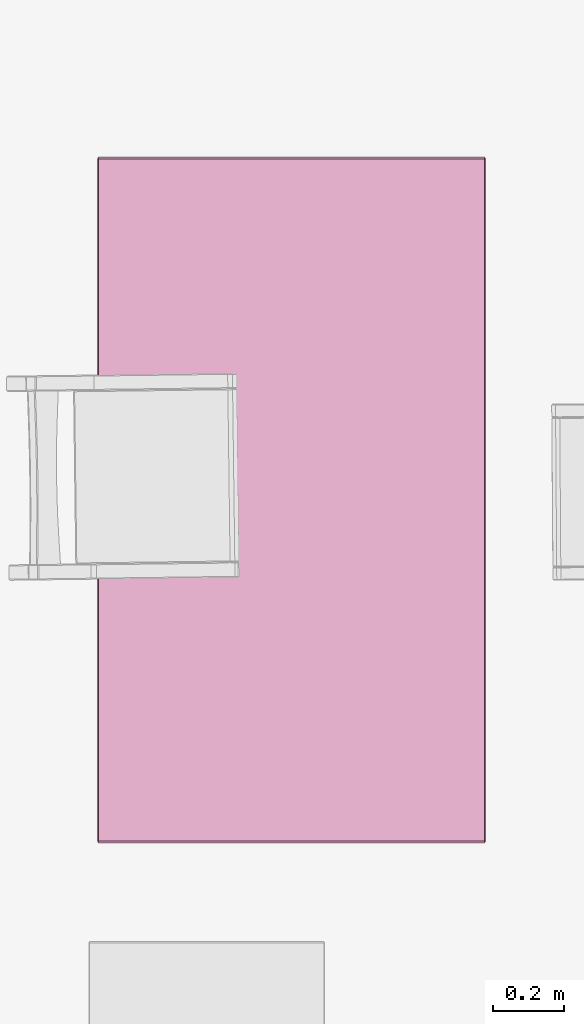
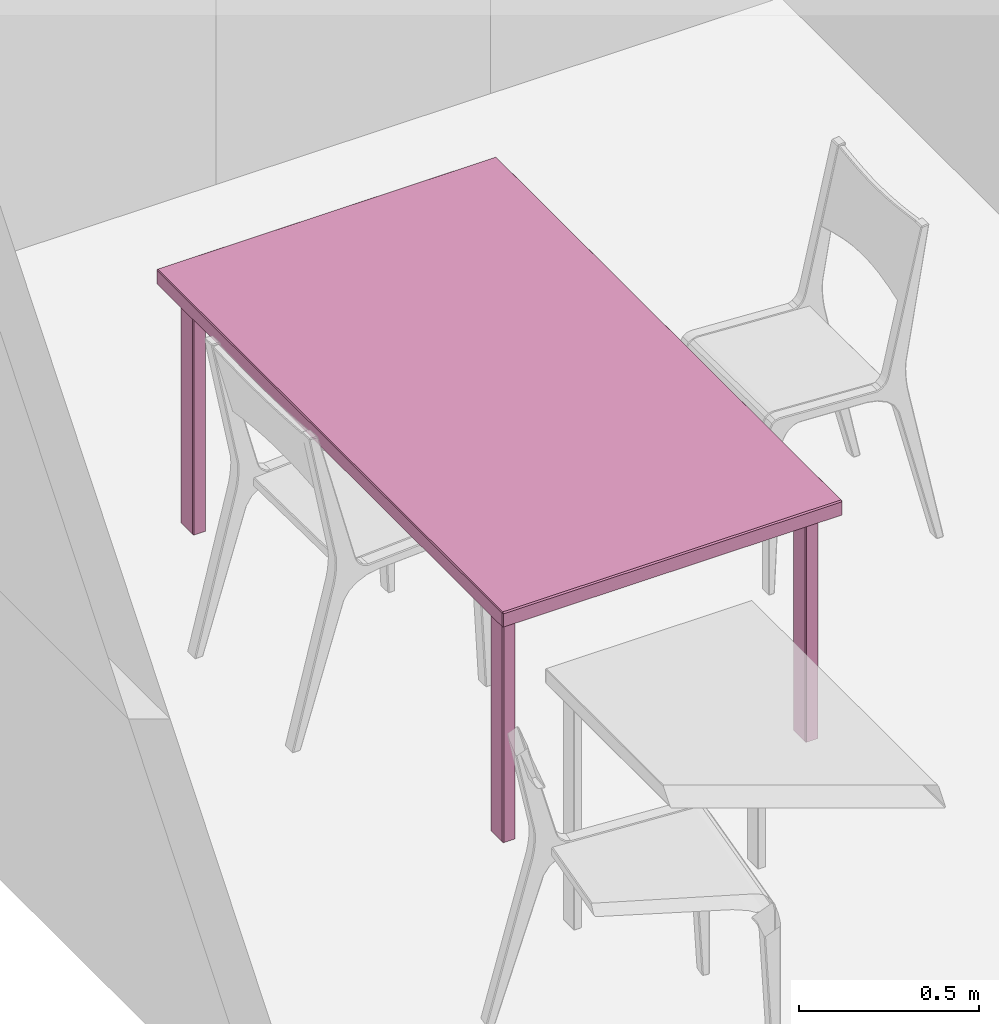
# One storey, part 7 of 26: 1 furnishing.
"""IFC2X3 building model written with IfcOpenShell, lengths in metres."""

import ifcopenshell
import ifcopenshell.guid

model = None  # the IFC model being written
_history = None  # IfcOwnerHistory: only IFC2X3 demands one
_inside = {}  # id of a spatial element -> (the spatial element, [elements in it])
_under = {}  # id of a project, library or spatial element -> (it, [spatial elements below it])
_declared = {}  # id of a project -> (the project, [libraries it declares])
_typed = {}  # id of a type object -> (the type object, [elements of that type])
_made_of = {}  # id of a material, layer set ... -> (it, [elements and type objects made of it])


def new_model(schema):
    """Start an empty IFC model of exactly this schema.

    Asked for "IFC4X3", IfcOpenShell would pick the latest addendum, in which some entities
    have other attributes; the version numbers below select the first issue.
    IFC2X3 requires an IfcOwnerHistory on every rooted entity: one is made here for all.
    """
    global model, _history
    if schema == "IFC4X3":
        model = ifcopenshell.file(schema_version=(4, 3, 0, 0))
    else:
        model = ifcopenshell.file(schema=schema)
    _inside.clear()
    _under.clear()
    _declared.clear()
    _typed.clear()
    _made_of.clear()
    _history = None
    if model.schema == "IFC2X3":
        org = make("IfcOrganization", Name="unknown")
        user = make(
            "IfcPersonAndOrganization",
            ThePerson=make("IfcPerson", FamilyName="unknown"),
            TheOrganization=org,
        )
        app = make(
            "IfcApplication",
            ApplicationDeveloper=org,
            Version="unknown",
            ApplicationFullName="unknown",
            ApplicationIdentifier="unknown",
        )
        _history = make(
            "IfcOwnerHistory",
            OwningUser=user,
            OwningApplication=app,
            ChangeAction="ADDED",
            CreationDate=0,
        )
    return model


def make(cls, **values):
    """One entity of the class cls with the attributes given. An attribute that is None is left unset."""
    return model.create_entity(
        cls, **{name: value for name, value in values.items() if value is not None}
    )


def rooted(cls, **values):
    """An entity with a GlobalId (a new one), such as an element, a storey or a relation."""
    return make(cls, GlobalId=ifcopenshell.guid.new(), OwnerHistory=_history, **values)


def si_unit(unit_type, name, prefix=None):
    """IfcSIUnit, for example si_unit("LENGTHUNIT", "METRE", prefix="MILLI")."""
    return make("IfcSIUnit", UnitType=unit_type, Prefix=prefix, Name=name)


def assignment(units):
    """IfcUnitAssignment: the units of a project."""
    return None if units is None else make("IfcUnitAssignment", Units=units)


def point(xyz):
    """IfcCartesianPoint."""
    return None if xyz is None else make("IfcCartesianPoint", Coordinates=xyz)


def direction(xyz):
    """IfcDirection."""
    return None if xyz is None else make("IfcDirection", DirectionRatios=xyz)


def frame(location, z_axis=None, x_axis=None):
    """IfcAxis2Placement3D, a coordinate frame: its origin and axes. An axis left out is left unset."""
    return make(
        "IfcAxis2Placement3D",
        Location=point(location),
        Axis=direction(z_axis),
        RefDirection=direction(x_axis),
    )


def origin_with_axes():
    """The frame at (0, 0, 0) with the z axis (0, 0, 1) and the x axis (1, 0, 0) written out."""
    return frame((0.0, 0.0, 0.0), z_axis=(0.0, 0.0, 1.0), x_axis=(1.0, 0.0, 0.0))


def place(relative_to, where):
    """IfcLocalPlacement: puts the frame where relative to a parent placement (None: the world)."""
    return make(
        "IfcLocalPlacement", PlacementRelTo=relative_to, RelativePlacement=where
    )


def context(
    kind, dimensions, precision=None, world=None, true_north=None, identifier=None
):
    """IfcGeometricRepresentationContext, for example the 3D "Model" context."""
    return make(
        "IfcGeometricRepresentationContext",
        ContextIdentifier=identifier,
        ContextType=kind,
        CoordinateSpaceDimension=dimensions,
        Precision=precision,
        WorldCoordinateSystem=world,
        TrueNorth=true_north,
    )


def project(units=None, contexts=None):
    """IfcProject with its units and contexts."""
    return rooted(
        "IfcProject",
        Name="project",
        RepresentationContexts=contexts,
        UnitsInContext=assignment(units),
    )


def spatial(cls, under=None, at=None, **own):
    """A site, building, storey or space (cls), placed at a placement, below another one or the project."""
    s = rooted(cls, ObjectPlacement=at, **own)
    if under is not None:
        _under.setdefault(under.id(), (under, []))[1].append(s)
    return s


def faces_of(points, faces, orient=None, outer=None):
    """IfcFace entities. A face is a list of loops; a loop is a list of indices into points, from 0.

    orient and outer hold one flag for each loop. By default every Orientation is true, the
    first loop of a face is its IfcFaceOuterBound and the others are IfcFaceBound.
    """
    made = []
    for i, loops in enumerate(faces):
        bounds = []
        for j, loop in enumerate(loops):
            is_outer = j == 0 if outer is None else outer[i][j]
            bounds.append(
                make(
                    "IfcFaceOuterBound" if is_outer else "IfcFaceBound",
                    Bound=make("IfcPolyLoop", Polygon=[points[k] for k in loop]),
                    Orientation=True if orient is None else orient[i][j],
                )
            )
        made.append(make("IfcFace", Bounds=bounds))
    return made


def faceted_brep(points, faces, orient=None, outer=None, voids=None):
    """IfcFacetedBrep: a solid bounded by flat faces; with voids (closed shells), ...WithVoids."""
    shared = [point(p) for p in points]
    hull = make("IfcClosedShell", CfsFaces=faces_of(shared, faces, orient, outer))
    if voids is None:
        return make("IfcFacetedBrep", Outer=hull)
    return make(
        "IfcFacetedBrepWithVoids",
        Outer=hull,
        Voids=[
            make(cls, CfsFaces=faces_of(shared, fs, o, b)) for cls, fs, o, b in voids
        ],
    )


def shape(context_of_items, identifier, shape_type, items):
    """IfcShapeRepresentation: the items that make up one representation, for example the "Body"."""
    return make(
        "IfcShapeRepresentation",
        ContextOfItems=context_of_items,
        RepresentationIdentifier=identifier,
        RepresentationType=shape_type,
        Items=items,
    )


def made_of(thing, what):
    """Note that an element or type object is made of a material, layer set ...; save() writes the relation."""
    if what is not None:
        _made_of.setdefault(what.id(), (what, []))[1].append(thing)
    return thing


def type_object(cls, material=None, **own):
    """A type object (cls), such as IfcWallType, which elements share."""
    return made_of(rooted(cls, **own), material)


def element(
    cls,
    number,
    at=None,
    inside=None,
    cuts=None,
    type_object=None,
    material=None,
    context=None,
    identifier="Body",
    shape_type=None,
    held_by="IfcProductDefinitionShape",
    body=None,
    shapes=None,
    **own,
):
    """One element of the class cls, such as IfcWall. Its Tag is "e" and its number.

    at: its placement. inside: the storey or other place that contains it. cuts: it is an
    opening in that element (IfcRelVoidsElement). A single representation is given by context,
    identifier, shape_type and body (its items); several are given by shapes. held_by: the class
    of the entity that holds the representations. save() writes the other relations.
    """
    e = rooted(cls, Tag="e%d" % number, ObjectPlacement=at, **own)
    if body is not None:
        shapes = [shape(context, identifier, shape_type, body)]
    if shapes is not None:
        e.Representation = make(held_by, Representations=shapes)
    if inside is not None:
        _inside.setdefault(inside.id(), (inside, []))[1].append(e)
    if cuts is not None:
        rooted(
            "IfcRelVoidsElement", RelatingBuildingElement=cuts, RelatedOpeningElement=e
        )
    if type_object is not None:
        _typed.setdefault(type_object.id(), (type_object, []))[1].append(e)
    return made_of(e, material)


def aggregate(whole, parts):
    """IfcRelAggregates: a whole, such as a stair, and the parts it consists of."""
    return rooted("IfcRelAggregates", RelatingObject=whole, RelatedObjects=parts)


def save(model, path):
    """Write the relations noted so far, then the file.

    IfcRelAggregates (storeys below a building ...), IfcRelContainedInSpatialStructure (elements
    in a storey), IfcRelDefinesByType, IfcRelAssociatesMaterial and IfcRelDeclares: one each for
    every whole, place, type object, material and project.
    """
    for whole, parts in _under.values():
        aggregate(whole, parts)
    for where, things in _inside.values():
        rooted(
            "IfcRelContainedInSpatialStructure",
            RelatedElements=things,
            RelatingStructure=where,
        )
    for kind, things in _typed.values():
        rooted("IfcRelDefinesByType", RelatedObjects=things, RelatingType=kind)
    for what, things in _made_of.values():
        rooted("IfcRelAssociatesMaterial", RelatedObjects=things, RelatingMaterial=what)
    for by, libraries in _declared.values():
        rooted("IfcRelDeclares", RelatingContext=by, RelatedDefinitions=libraries)
    model.write(path)


model = new_model("IFC2X3")

# Units and contexts
model_context = context("Model", 3, precision=1e-05, world=origin_with_axes(), true_north=direction((0.996, -0.093, 0.0)))
ifc_project = project(units=[si_unit("AREAUNIT", "SQUARE_METRE"), si_unit("LENGTHUNIT", "METRE")], contexts=[model_context])

# Site, building, storey, space
site_placement = place(None, origin_with_axes())
site = spatial("IfcSite", under=ifc_project, at=site_placement, Name="Site", CompositionType="ELEMENT")
building_placement = place(site_placement, origin_with_axes())
building = spatial("IfcBuilding", under=site, at=building_placement, Name="Building", CompositionType="ELEMENT")
storey_placement = place(building_placement, frame((0.0, 0.0, 0.0500001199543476), z_axis=(0.0, 0.0, 1.0), x_axis=(1.0, 0.0, 0.0)))
storey = spatial("IfcBuildingStorey", under=building, at=storey_placement, Name="Story 0", CompositionType="ELEMENT", Elevation=0.0500000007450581)
space_placement = place(storey_placement, frame((1.81268445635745, 0.76919262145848, 0.0), z_axis=(0.0, 0.0, 1.0), x_axis=(1.0, 0.0, 0.0)))
space = spatial("IfcSpace", under=storey, at=space_placement, Name="013", CompositionType="ELEMENT", InteriorOrExteriorSpace="INTERNAL")

# Furnishing
furniture_type = type_object("IfcFurnitureType", Name="7cafea84-9671-433a-a44b-282d78b740ac")
furnishing_placement = place(space_placement, frame((-2.20816097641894, -2.2638544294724, 0.417852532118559), z_axis=(0.0, 0.0, 0.999999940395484), x_axis=(-0.999999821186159, 0.0, 0.0)))
element("IfcFurnishingElement", 1, at=furnishing_placement, inside=space, type_object=furniture_type, Name="Table", ObjectType="Table", context=model_context, shape_type="Brep", body=[
    faceted_brep([(0.5414, 0.9615, 0.3694), (-0.5414, 0.9615, 0.3694), (0.5414, 0.9615, 0.4142), (-0.5414, 0.9615, 0.4142), (0.5414, 0.9615, 0.4142), (-0.5414, 0.9615, 0.3694), (0.4641, -0.8903, 0.3788), (0.4641, -0.8272, 0.3788), (0.4641, -0.8903, -0.4142), (0.4641, -0.8272, -0.4142), (0.4641, -0.8903, -0.4142), (0.4641, -0.8272, 0.3788), (0.5025, -0.8951, 0.3788), (0.4668, -0.8951, 0.3788), (0.5025, -0.8951, -0.4142), (0.4668, -0.8951, -0.4142), (0.5025, -0.8951, -0.4142), (0.4668, -0.8951, 0.3788), (0.5052, -0.8272, 0.3788), (0.5052, -0.8903, 0.3788), (0.5052, -0.8272, -0.4142), (0.5052, -0.8903, -0.4142), (0.5052, -0.8272, -0.4142), (0.5052, -0.8903, 0.3788), (0.4668, -0.8224, 0.3788), (0.5025, -0.8224, 0.3788), (0.4668, -0.8224, -0.4142), (0.5025, -0.8224, -0.4142), (0.4668, -0.8224, -0.4142), (0.5025, -0.8224, 0.3788), (0.4641, 0.8903, 0.3788), (0.4641, 0.8903, -0.4142), (0.4641, 0.8272, 0.3788), (0.4641, 0.8272, -0.4142), (0.4641, 0.8272, 0.3788), (0.4641, 0.8903, -0.4142), (0.5025, 0.8951, 0.3788), (0.5025, 0.8951, -0.4142), (0.4668, 0.8951, 0.3788), (0.4668, 0.8951, -0.4142), (0.4668, 0.8951, 0.3788), (0.5025, 0.8951, -0.4142), (0.5052, 0.8272, 0.3788), (0.5052, 0.8272, -0.4142), (0.5052, 0.8903, 0.3788), (0.5052, 0.8903, -0.4142), (0.5052, 0.8903, 0.3788), (0.5052, 0.8272, -0.4142), (0.4668, 0.8224, 0.3788), (0.4668, 0.8224, -0.4142), (0.5025, 0.8224, 0.3788), (0.5025, 0.8224, -0.4142), (0.5025, 0.8224, 0.3788), (0.4668, 0.8224, -0.4142), (0.5441, 0.9567, 0.3694), (0.5441, 0.9567, 0.4142), (0.5441, -0.9567, 0.3694), (0.5441, -0.9567, 0.4142), (0.5441, -0.9567, 0.3694), (0.5441, 0.9567, 0.4142), (-0.5441, 0.9567, 0.4142), (-0.5441, 0.9567, 0.3694), (-0.5441, -0.9567, 0.4142), (-0.5441, -0.9567, 0.3694), (-0.5441, -0.9567, 0.4142), (-0.5441, 0.9567, 0.3694), (-0.4641, -0.8903, 0.3788), (-0.4641, -0.8903, -0.4142), (-0.4641, -0.8272, 0.3788), (-0.4641, -0.8272, -0.4142), (-0.4641, -0.8272, 0.3788), (-0.4641, -0.8903, -0.4142), (-0.5025, -0.8951, 0.3788), (-0.5025, -0.8951, -0.4142), (-0.4668, -0.8951, 0.3788), (-0.4668, -0.8951, -0.4142), (-0.4668, -0.8951, 0.3788), (-0.5025, -0.8951, -0.4142), (-0.5052, -0.8272, 0.3788), (-0.5052, -0.8272, -0.4142), (-0.5052, -0.8903, 0.3788), (-0.5052, -0.8903, -0.4142), (-0.5052, -0.8903, 0.3788), (-0.5052, -0.8272, -0.4142), (-0.4668, -0.8224, 0.3788), (-0.4668, -0.8224, -0.4142), (-0.5025, -0.8224, 0.3788), (-0.5025, -0.8224, -0.4142), (-0.5025, -0.8224, 0.3788), (-0.4668, -0.8224, -0.4142), (-0.4641, 0.8903, 0.3788), (-0.4641, 0.8272, 0.3788), (-0.4641, 0.8903, -0.4142), (-0.4641, 0.8272, -0.4142), (-0.4641, 0.8903, -0.4142), (-0.4641, 0.8272, 0.3788), (-0.5025, 0.8951, 0.3788), (-0.4668, 0.8951, 0.3788), (-0.5025, 0.8951, -0.4142), (-0.4668, 0.8951, -0.4142), (-0.5025, 0.8951, -0.4142), (-0.4668, 0.8951, 0.3788), (-0.5052, 0.8272, 0.3788), (-0.5052, 0.8903, 0.3788), (-0.5052, 0.8272, -0.4142), (-0.5052, 0.8903, -0.4142), (-0.5052, 0.8272, -0.4142), (-0.5052, 0.8903, 0.3788), (-0.4668, 0.8224, 0.3788), (-0.5025, 0.8224, 0.3788), (-0.4668, 0.8224, -0.4142), (-0.5025, 0.8224, -0.4142), (-0.4668, 0.8224, -0.4142), (-0.5025, 0.8224, 0.3788), (-0.5414, 0.9567, 0.4179), (-0.5414, -0.9567, 0.4179), (0.5414, 0.9567, 0.4179), (0.5414, -0.9567, 0.4179), (0.5414, 0.9567, 0.4179), (-0.5414, -0.9567, 0.4179), (0.5414, -0.9615, 0.3694), (0.5414, -0.9615, 0.4142), (-0.5414, -0.9615, 0.3694), (-0.5414, -0.9615, 0.4142), (-0.5414, -0.9615, 0.3694), (0.5414, -0.9615, 0.4142), (0.5414, -0.9567, 0.3657), (-0.5414, -0.9567, 0.3657), (0.5414, 0.9567, 0.3657), (-0.5414, 0.9567, 0.3657), (0.5414, 0.9567, 0.3657), (-0.5414, -0.9567, 0.3657), (0.5025, -0.8903, 0.3825), (0.5025, -0.8272, 0.3825), (0.4668, -0.8903, 0.3825), (0.4668, -0.8272, 0.3825), (0.4668, -0.8903, 0.3825), (0.5025, -0.8272, 0.3825), (0.5025, -0.8272, -0.4179), (0.5025, -0.8903, -0.4179), (0.4668, -0.8272, -0.4179), (0.4668, -0.8903, -0.4179), (0.4668, -0.8272, -0.4179), (0.5025, -0.8903, -0.4179), (0.5025, 0.8903, -0.4179), (0.5025, 0.8272, -0.4179), (0.4668, 0.8903, -0.4179), (0.4668, 0.8272, -0.4179), (0.4668, 0.8903, -0.4179), (0.5025, 0.8272, -0.4179), (0.5025, 0.8272, 0.3825), (0.5025, 0.8903, 0.3825), (0.4668, 0.8272, 0.3825), (0.4668, 0.8903, 0.3825), (0.4668, 0.8272, 0.3825), (0.5025, 0.8903, 0.3825), (-0.5025, -0.8903, -0.4179), (-0.5025, -0.8272, -0.4179), (-0.4668, -0.8903, -0.4179), (-0.4668, -0.8272, -0.4179), (-0.4668, -0.8903, -0.4179), (-0.5025, -0.8272, -0.4179), (-0.5025, -0.8272, 0.3825), (-0.5025, -0.8903, 0.3825), (-0.4668, -0.8272, 0.3825), (-0.4668, -0.8903, 0.3825), (-0.4668, -0.8272, 0.3825), (-0.5025, -0.8903, 0.3825), (-0.5025, 0.8903, 0.3825), (-0.5025, 0.8272, 0.3825), (-0.4668, 0.8903, 0.3825), (-0.4668, 0.8272, 0.3825), (-0.4668, 0.8903, 0.3825), (-0.5025, 0.8272, 0.3825), (-0.5025, 0.8272, -0.4179), (-0.5025, 0.8903, -0.4179), (-0.4668, 0.8272, -0.4179), (-0.4668, 0.8903, -0.4179), (-0.4668, 0.8272, -0.4179), (-0.5025, 0.8903, -0.4179), (-0.5414, 0.9567, 0.4179), (-0.5414, 0.9615, 0.4142), (-0.5441, 0.9567, 0.4142), (0.4668, -0.8272, -0.4179), (0.4641, -0.8272, -0.4142), (0.4668, -0.8224, -0.4142), (0.4668, -0.8903, -0.4179), (0.4668, -0.8951, -0.4142), (0.4641, -0.8903, -0.4142), (0.5025, -0.8903, -0.4179), (0.5052, -0.8903, -0.4142), (0.5025, -0.8951, -0.4142), (0.5025, -0.8272, -0.4179), (0.5025, -0.8224, -0.4142), (0.5052, -0.8272, -0.4142), (0.4668, -0.8272, 0.3825), (0.4668, -0.8224, 0.3788), (0.4641, -0.8272, 0.3788), (0.4668, 0.8224, -0.4142), (0.4641, 0.8272, -0.4142), (0.4668, 0.8272, -0.4179), (0.4668, 0.8903, 0.3825), (0.4668, 0.8951, 0.3788), (0.4641, 0.8903, 0.3788), (0.5025, 0.8903, 0.3825), (0.5052, 0.8903, 0.3788), (0.5025, 0.8951, 0.3788), (0.5025, 0.8272, 0.3825), (0.5025, 0.8224, 0.3788), (0.5052, 0.8272, 0.3788), (0.5414, -0.9615, 0.4142), (0.5441, -0.9567, 0.4142), (0.5414, -0.9567, 0.4179), (0.5414, 0.9567, 0.4179), (0.5441, 0.9567, 0.4142), (0.5414, 0.9615, 0.4142), (-0.5414, -0.9615, 0.3694), (-0.5441, -0.9567, 0.3694), (-0.5414, -0.9567, 0.3657), (-0.5414, 0.9567, 0.3657), (-0.5441, 0.9567, 0.3694), (-0.5414, 0.9615, 0.3694), (-0.4668, -0.8224, -0.4142), (-0.4641, -0.8272, -0.4142), (-0.4668, -0.8272, -0.4179), (-0.4668, -0.8903, 0.3825), (-0.4668, -0.8951, 0.3788), (-0.4641, -0.8903, 0.3788), (-0.5025, -0.8903, 0.3825), (-0.5052, -0.8903, 0.3788), (-0.5025, -0.8951, 0.3788), (-0.5025, -0.8272, 0.3825), (-0.5025, -0.8224, 0.3788), (-0.5052, -0.8272, 0.3788), (-0.4668, 0.8272, -0.4179), (-0.4641, 0.8272, -0.4142), (-0.4668, 0.8224, -0.4142), (-0.4668, 0.8903, -0.4179), (-0.4668, 0.8951, -0.4142), (-0.4641, 0.8903, -0.4142), (-0.5025, 0.8903, -0.4179), (-0.5052, 0.8903, -0.4142), (-0.5025, 0.8951, -0.4142), (-0.5025, 0.8272, -0.4179), (-0.5025, 0.8224, -0.4142), (-0.5052, 0.8272, -0.4142), (-0.4668, 0.8272, 0.3825), (-0.4668, 0.8224, 0.3788), (-0.4641, 0.8272, 0.3788), (-0.5414, -0.9615, 0.4142), (-0.5414, -0.9567, 0.4179), (-0.5441, -0.9567, 0.4142), (0.5414, -0.9615, 0.3694), (0.5414, -0.9567, 0.3657), (0.5441, -0.9567, 0.3694), (0.5441, 0.9567, 0.3694), (0.5414, 0.9567, 0.3657), (0.5414, 0.9615, 0.3694), (0.5025, -0.8224, 0.3788), (0.5025, -0.8272, 0.3825), (0.5052, -0.8272, 0.3788), (0.5052, -0.8903, 0.3788), (0.5025, -0.8903, 0.3825), (0.5025, -0.8951, 0.3788), (0.4668, -0.8951, 0.3788), (0.4668, -0.8903, 0.3825), (0.4641, -0.8903, 0.3788), (0.5025, 0.8224, -0.4142), (0.5025, 0.8272, -0.4179), (0.5052, 0.8272, -0.4142), (0.5052, 0.8903, -0.4142), (0.5025, 0.8903, -0.4179), (0.5025, 0.8951, -0.4142), (0.4668, 0.8951, -0.4142), (0.4668, 0.8903, -0.4179), (0.4641, 0.8903, -0.4142), (0.4668, 0.8224, 0.3788), (0.4668, 0.8272, 0.3825), (0.4641, 0.8272, 0.3788), (-0.5025, -0.8224, -0.4142), (-0.5025, -0.8272, -0.4179), (-0.5052, -0.8272, -0.4142), (-0.5052, -0.8903, -0.4142), (-0.5025, -0.8903, -0.4179), (-0.5025, -0.8951, -0.4142), (-0.4668, -0.8951, -0.4142), (-0.4668, -0.8903, -0.4179), (-0.4641, -0.8903, -0.4142), (-0.4668, -0.8224, 0.3788), (-0.4668, -0.8272, 0.3825), (-0.4641, -0.8272, 0.3788), (-0.5025, 0.8224, 0.3788), (-0.5025, 0.8272, 0.3825), (-0.5052, 0.8272, 0.3788), (-0.5052, 0.8903, 0.3788), (-0.5025, 0.8903, 0.3825), (-0.5025, 0.8951, 0.3788), (-0.4668, 0.8951, 0.3788), (-0.4668, 0.8903, 0.3825), (-0.4641, 0.8903, 0.3788), (-0.5414, 0.9615, 0.4142), (-0.5414, 0.9615, 0.3694), (-0.5441, 0.9567, 0.4142), (-0.5441, 0.9567, 0.3694), (-0.5441, 0.9567, 0.4142), (-0.5414, 0.9615, 0.3694), (-0.5414, 0.9615, 0.3694), (0.5414, 0.9615, 0.3694), (-0.5414, 0.9567, 0.3657), (0.5414, 0.9567, 0.3657), (-0.5414, 0.9567, 0.3657), (0.5414, 0.9615, 0.3694), (0.5414, 0.9615, 0.3694), (0.5414, 0.9615, 0.4142), (0.5441, 0.9567, 0.3694), (0.5441, 0.9567, 0.4142), (0.5441, 0.9567, 0.3694), (0.5414, 0.9615, 0.4142), (0.5414, 0.9615, 0.4142), (-0.5414, 0.9615, 0.4142), (0.5414, 0.9567, 0.4179), (-0.5414, 0.9567, 0.4179), (0.5414, 0.9567, 0.4179), (-0.5414, 0.9615, 0.4142), (0.4641, -0.8272, -0.4142), (0.4641, -0.8272, 0.3788), (0.4668, -0.8224, -0.4142), (0.4668, -0.8224, 0.3788), (0.4668, -0.8224, -0.4142), (0.4641, -0.8272, 0.3788), (0.4641, -0.8272, 0.3788), (0.4641, -0.8903, 0.3788), (0.4668, -0.8272, 0.3825), (0.4668, -0.8903, 0.3825), (0.4668, -0.8272, 0.3825), (0.4641, -0.8903, 0.3788), (0.4641, -0.8903, 0.3788), (0.4641, -0.8903, -0.4142), (0.4668, -0.8951, 0.3788), (0.4668, -0.8951, -0.4142), (0.4668, -0.8951, 0.3788), (0.4641, -0.8903, -0.4142), (0.4641, -0.8903, -0.4142), (0.4641, -0.8272, -0.4142), (0.4668, -0.8903, -0.4179), (0.4668, -0.8272, -0.4179), (0.4668, -0.8903, -0.4179), (0.4641, -0.8272, -0.4142), (0.4668, -0.8951, 0.3788), (0.5025, -0.8951, 0.3788), (0.4668, -0.8903, 0.3825), (0.5025, -0.8903, 0.3825), (0.4668, -0.8903, 0.3825), (0.5025, -0.8951, 0.3788), (0.5025, -0.8951, 0.3788), (0.5025, -0.8951, -0.4142), (0.5052, -0.8903, 0.3788), (0.5052, -0.8903, -0.4142), (0.5052, -0.8903, 0.3788), (0.5025, -0.8951, -0.4142), (0.5025, -0.8951, -0.4142), (0.4668, -0.8951, -0.4142), (0.5025, -0.8903, -0.4179), (0.4668, -0.8903, -0.4179), (0.5025, -0.8903, -0.4179), (0.4668, -0.8951, -0.4142), (0.5052, -0.8903, 0.3788), (0.5052, -0.8272, 0.3788), (0.5025, -0.8903, 0.3825), (0.5025, -0.8272, 0.3825), (0.5025, -0.8903, 0.3825), (0.5052, -0.8272, 0.3788), (0.5052, -0.8272, 0.3788), (0.5052, -0.8272, -0.4142), (0.5025, -0.8224, 0.3788), (0.5025, -0.8224, -0.4142), (0.5025, -0.8224, 0.3788), (0.5052, -0.8272, -0.4142), (0.5052, -0.8272, -0.4142), (0.5052, -0.8903, -0.4142), (0.5025, -0.8272, -0.4179), (0.5025, -0.8903, -0.4179), (0.5025, -0.8272, -0.4179), (0.5052, -0.8903, -0.4142), (0.5025, -0.8224, 0.3788), (0.4668, -0.8224, 0.3788), (0.5025, -0.8272, 0.3825), (0.4668, -0.8272, 0.3825), (0.5025, -0.8272, 0.3825), (0.4668, -0.8224, 0.3788), (0.4668, -0.8224, -0.4142), (0.5025, -0.8224, -0.4142), (0.4668, -0.8272, -0.4179), (0.5025, -0.8272, -0.4179), (0.4668, -0.8272, -0.4179), (0.5025, -0.8224, -0.4142), (0.4641, 0.8272, -0.4142), (0.4641, 0.8903, -0.4142), (0.4668, 0.8272, -0.4179), (0.4668, 0.8903, -0.4179), (0.4668, 0.8272, -0.4179), (0.4641, 0.8903, -0.4142), (0.4641, 0.8903, -0.4142), (0.4641, 0.8903, 0.3788), (0.4668, 0.8951, -0.4142), (0.4668, 0.8951, 0.3788), (0.4668, 0.8951, -0.4142), (0.4641, 0.8903, 0.3788), (0.4641, 0.8903, 0.3788), (0.4641, 0.8272, 0.3788), (0.4668, 0.8903, 0.3825), (0.4668, 0.8272, 0.3825), (0.4668, 0.8903, 0.3825), (0.4641, 0.8272, 0.3788), (0.4641, 0.8272, 0.3788), (0.4641, 0.8272, -0.4142), (0.4668, 0.8224, 0.3788), (0.4668, 0.8224, -0.4142), (0.4668, 0.8224, 0.3788), (0.4641, 0.8272, -0.4142), (0.4668, 0.8951, -0.4142), (0.5025, 0.8951, -0.4142), (0.4668, 0.8903, -0.4179), (0.5025, 0.8903, -0.4179), (0.4668, 0.8903, -0.4179), (0.5025, 0.8951, -0.4142), (0.5025, 0.8951, -0.4142), (0.5025, 0.8951, 0.3788), (0.5052, 0.8903, -0.4142), (0.5052, 0.8903, 0.3788), (0.5052, 0.8903, -0.4142), (0.5025, 0.8951, 0.3788), (0.5025, 0.8951, 0.3788), (0.4668, 0.8951, 0.3788), (0.5025, 0.8903, 0.3825), (0.4668, 0.8903, 0.3825), (0.5025, 0.8903, 0.3825), (0.4668, 0.8951, 0.3788), (0.5052, 0.8903, -0.4142), (0.5052, 0.8272, -0.4142), (0.5025, 0.8903, -0.4179), (0.5025, 0.8272, -0.4179), (0.5025, 0.8903, -0.4179), (0.5052, 0.8272, -0.4142), (0.5052, 0.8272, -0.4142), (0.5052, 0.8272, 0.3788), (0.5025, 0.8224, -0.4142), (0.5025, 0.8224, 0.3788), (0.5025, 0.8224, -0.4142), (0.5052, 0.8272, 0.3788), (0.5052, 0.8272, 0.3788), (0.5052, 0.8903, 0.3788), (0.5025, 0.8272, 0.3825), (0.5025, 0.8903, 0.3825), (0.5025, 0.8272, 0.3825), (0.5052, 0.8903, 0.3788), (0.5025, 0.8224, -0.4142), (0.4668, 0.8224, -0.4142), (0.5025, 0.8272, -0.4179), (0.4668, 0.8272, -0.4179), (0.5025, 0.8272, -0.4179), (0.4668, 0.8224, -0.4142), (0.4668, 0.8224, 0.3788), (0.5025, 0.8224, 0.3788), (0.4668, 0.8272, 0.3825), (0.5025, 0.8272, 0.3825), (0.4668, 0.8272, 0.3825), (0.5025, 0.8224, 0.3788), (0.5441, -0.9567, 0.4142), (0.5441, 0.9567, 0.4142), (0.5414, -0.9567, 0.4179), (0.5414, 0.9567, 0.4179), (0.5414, -0.9567, 0.4179), (0.5441, 0.9567, 0.4142), (0.5441, 0.9567, 0.3694), (0.5441, -0.9567, 0.3694), (0.5414, 0.9567, 0.3657), (0.5414, -0.9567, 0.3657), (0.5414, 0.9567, 0.3657), (0.5441, -0.9567, 0.3694), (0.5441, -0.9567, 0.3694), (0.5441, -0.9567, 0.4142), (0.5414, -0.9615, 0.3694), (0.5414, -0.9615, 0.4142), (0.5414, -0.9615, 0.3694), (0.5441, -0.9567, 0.4142), (-0.5441, -0.9567, 0.3694), (-0.5441, 0.9567, 0.3694), (-0.5414, -0.9567, 0.3657), (-0.5414, 0.9567, 0.3657), (-0.5414, -0.9567, 0.3657), (-0.5441, 0.9567, 0.3694), (-0.5441, 0.9567, 0.4142), (-0.5441, -0.9567, 0.4142), (-0.5414, 0.9567, 0.4179), (-0.5414, -0.9567, 0.4179), (-0.5414, 0.9567, 0.4179), (-0.5441, -0.9567, 0.4142), (-0.5441, -0.9567, 0.4142), (-0.5441, -0.9567, 0.3694), (-0.5414, -0.9615, 0.4142), (-0.5414, -0.9615, 0.3694), (-0.5414, -0.9615, 0.4142), (-0.5441, -0.9567, 0.3694), (-0.4641, -0.8272, -0.4142), (-0.4641, -0.8903, -0.4142), (-0.4668, -0.8272, -0.4179), (-0.4668, -0.8903, -0.4179), (-0.4668, -0.8272, -0.4179), (-0.4641, -0.8903, -0.4142), (-0.4641, -0.8903, -0.4142), (-0.4641, -0.8903, 0.3788), (-0.4668, -0.8951, -0.4142), (-0.4668, -0.8951, 0.3788), (-0.4668, -0.8951, -0.4142), (-0.4641, -0.8903, 0.3788), (-0.4641, -0.8903, 0.3788), (-0.4641, -0.8272, 0.3788), (-0.4668, -0.8903, 0.3825), (-0.4668, -0.8272, 0.3825), (-0.4668, -0.8903, 0.3825), (-0.4641, -0.8272, 0.3788), (-0.4641, -0.8272, 0.3788), (-0.4641, -0.8272, -0.4142), (-0.4668, -0.8224, 0.3788), (-0.4668, -0.8224, -0.4142), (-0.4668, -0.8224, 0.3788), (-0.4641, -0.8272, -0.4142), (-0.4668, -0.8951, -0.4142), (-0.5025, -0.8951, -0.4142), (-0.4668, -0.8903, -0.4179), (-0.5025, -0.8903, -0.4179), (-0.4668, -0.8903, -0.4179), (-0.5025, -0.8951, -0.4142), (-0.5025, -0.8951, -0.4142), (-0.5025, -0.8951, 0.3788), (-0.5052, -0.8903, -0.4142), (-0.5052, -0.8903, 0.3788), (-0.5052, -0.8903, -0.4142), (-0.5025, -0.8951, 0.3788), (-0.5025, -0.8951, 0.3788), (-0.4668, -0.8951, 0.3788), (-0.5025, -0.8903, 0.3825), (-0.4668, -0.8903, 0.3825), (-0.5025, -0.8903, 0.3825), (-0.4668, -0.8951, 0.3788), (-0.5052, -0.8903, -0.4142), (-0.5052, -0.8272, -0.4142), (-0.5025, -0.8903, -0.4179), (-0.5025, -0.8272, -0.4179), (-0.5025, -0.8903, -0.4179), (-0.5052, -0.8272, -0.4142), (-0.5052, -0.8272, -0.4142), (-0.5052, -0.8272, 0.3788), (-0.5025, -0.8224, -0.4142), (-0.5025, -0.8224, 0.3788), (-0.5025, -0.8224, -0.4142), (-0.5052, -0.8272, 0.3788), (-0.5052, -0.8272, 0.3788), (-0.5052, -0.8903, 0.3788), (-0.5025, -0.8272, 0.3825), (-0.5025, -0.8903, 0.3825), (-0.5025, -0.8272, 0.3825), (-0.5052, -0.8903, 0.3788), (-0.5025, -0.8224, -0.4142), (-0.4668, -0.8224, -0.4142), (-0.5025, -0.8272, -0.4179), (-0.4668, -0.8272, -0.4179), (-0.5025, -0.8272, -0.4179), (-0.4668, -0.8224, -0.4142), (-0.4668, -0.8224, 0.3788), (-0.5025, -0.8224, 0.3788), (-0.4668, -0.8272, 0.3825), (-0.5025, -0.8272, 0.3825), (-0.4668, -0.8272, 0.3825), (-0.5025, -0.8224, 0.3788), (-0.4641, 0.8272, -0.4142), (-0.4641, 0.8272, 0.3788), (-0.4668, 0.8224, -0.4142), (-0.4668, 0.8224, 0.3788), (-0.4668, 0.8224, -0.4142), (-0.4641, 0.8272, 0.3788), (-0.4641, 0.8272, 0.3788), (-0.4641, 0.8903, 0.3788), (-0.4668, 0.8272, 0.3825), (-0.4668, 0.8903, 0.3825), (-0.4668, 0.8272, 0.3825), (-0.4641, 0.8903, 0.3788), (-0.4641, 0.8903, 0.3788), (-0.4641, 0.8903, -0.4142), (-0.4668, 0.8951, 0.3788), (-0.4668, 0.8951, -0.4142), (-0.4668, 0.8951, 0.3788), (-0.4641, 0.8903, -0.4142), (-0.4641, 0.8903, -0.4142), (-0.4641, 0.8272, -0.4142), (-0.4668, 0.8903, -0.4179), (-0.4668, 0.8272, -0.4179), (-0.4668, 0.8903, -0.4179), (-0.4641, 0.8272, -0.4142), (-0.4668, 0.8951, 0.3788), (-0.5025, 0.8951, 0.3788), (-0.4668, 0.8903, 0.3825), (-0.5025, 0.8903, 0.3825), (-0.4668, 0.8903, 0.3825), (-0.5025, 0.8951, 0.3788), (-0.5025, 0.8951, 0.3788), (-0.5025, 0.8951, -0.4142), (-0.5052, 0.8903, 0.3788), (-0.5052, 0.8903, -0.4142), (-0.5052, 0.8903, 0.3788), (-0.5025, 0.8951, -0.4142), (-0.5025, 0.8951, -0.4142), (-0.4668, 0.8951, -0.4142), (-0.5025, 0.8903, -0.4179), (-0.4668, 0.8903, -0.4179), (-0.5025, 0.8903, -0.4179), (-0.4668, 0.8951, -0.4142), (-0.5052, 0.8903, 0.3788), (-0.5052, 0.8272, 0.3788), (-0.5025, 0.8903, 0.3825), (-0.5025, 0.8272, 0.3825), (-0.5025, 0.8903, 0.3825), (-0.5052, 0.8272, 0.3788), (-0.5052, 0.8272, 0.3788), (-0.5052, 0.8272, -0.4142), (-0.5025, 0.8224, 0.3788), (-0.5025, 0.8224, -0.4142), (-0.5025, 0.8224, 0.3788), (-0.5052, 0.8272, -0.4142), (-0.5052, 0.8272, -0.4142), (-0.5052, 0.8903, -0.4142), (-0.5025, 0.8272, -0.4179), (-0.5025, 0.8903, -0.4179), (-0.5025, 0.8272, -0.4179), (-0.5052, 0.8903, -0.4142), (-0.5025, 0.8224, 0.3788), (-0.4668, 0.8224, 0.3788), (-0.5025, 0.8272, 0.3825), (-0.4668, 0.8272, 0.3825), (-0.5025, 0.8272, 0.3825), (-0.4668, 0.8224, 0.3788), (-0.4668, 0.8224, -0.4142), (-0.5025, 0.8224, -0.4142), (-0.4668, 0.8272, -0.4179), (-0.5025, 0.8272, -0.4179), (-0.4668, 0.8272, -0.4179), (-0.5025, 0.8224, -0.4142), (0.5414, -0.9567, 0.4179), (-0.5414, -0.9567, 0.4179), (0.5414, -0.9615, 0.4142), (-0.5414, -0.9615, 0.4142), (0.5414, -0.9615, 0.4142), (-0.5414, -0.9567, 0.4179), (0.5414, -0.9615, 0.3694), (-0.5414, -0.9615, 0.3694), (0.5414, -0.9567, 0.3657), (-0.5414, -0.9567, 0.3657), (0.5414, -0.9567, 0.3657), (-0.5414, -0.9615, 0.3694)], [[[0, 1, 2]], [[3, 4, 5]], [[6, 7, 8]], [[9, 10, 11]], [[12, 13, 14]], [[15, 16, 17]], [[18, 19, 20]], [[21, 22, 23]], [[24, 25, 26]], [[27, 28, 29]], [[30, 31, 32]], [[33, 34, 35]], [[36, 37, 38]], [[39, 40, 41]], [[42, 43, 44]], [[45, 46, 47]], [[48, 49, 50]], [[51, 52, 53]], [[54, 55, 56]], [[57, 58, 59]], [[60, 61, 62]], [[63, 64, 65]], [[66, 67, 68]], [[69, 70, 71]], [[72, 73, 74]], [[75, 76, 77]], [[78, 79, 80]], [[81, 82, 83]], [[84, 85, 86]], [[87, 88, 89]], [[90, 91, 92]], [[93, 94, 95]], [[96, 97, 98]], [[99, 100, 101]], [[102, 103, 104]], [[105, 106, 107]], [[108, 109, 110]], [[111, 112, 113]], [[114, 115, 116]], [[117, 118, 119]], [[120, 121, 122]], [[123, 124, 125]], [[126, 127, 128]], [[129, 130, 131]], [[132, 133, 134]], [[135, 136, 137]], [[138, 139, 140]], [[141, 142, 143]], [[144, 145, 146]], [[147, 148, 149]], [[150, 151, 152]], [[153, 154, 155]], [[156, 157, 158]], [[159, 160, 161]], [[162, 163, 164]], [[165, 166, 167]], [[168, 169, 170]], [[171, 172, 173]], [[174, 175, 176]], [[177, 178, 179]], [[180, 181, 182]], [[183, 184, 185]], [[186, 187, 188]], [[189, 190, 191]], [[192, 193, 194]], [[195, 196, 197]], [[198, 199, 200]], [[201, 202, 203]], [[204, 205, 206]], [[207, 208, 209]], [[210, 211, 212]], [[213, 214, 215]], [[216, 217, 218]], [[219, 220, 221]], [[222, 223, 224]], [[225, 226, 227]], [[228, 229, 230]], [[231, 232, 233]], [[234, 235, 236]], [[237, 238, 239]], [[240, 241, 242]], [[243, 244, 245]], [[246, 247, 248]], [[249, 250, 251]], [[252, 253, 254]], [[255, 256, 257]], [[258, 259, 260]], [[261, 262, 263]], [[264, 265, 266]], [[267, 268, 269]], [[270, 271, 272]], [[273, 274, 275]], [[276, 277, 278]], [[279, 280, 281]], [[282, 283, 284]], [[285, 286, 287]], [[288, 289, 290]], [[291, 292, 293]], [[294, 295, 296]], [[297, 298, 299]], [[300, 301, 302]], [[303, 304, 305]], [[306, 307, 308]], [[309, 310, 311]], [[312, 313, 314]], [[315, 316, 317]], [[318, 319, 320]], [[321, 322, 323]], [[324, 325, 326]], [[327, 328, 329]], [[330, 331, 332]], [[333, 334, 335]], [[336, 337, 338]], [[339, 340, 341]], [[342, 343, 344]], [[345, 346, 347]], [[348, 349, 350]], [[351, 352, 353]], [[354, 355, 356]], [[357, 358, 359]], [[360, 361, 362]], [[363, 364, 365]], [[366, 367, 368]], [[369, 370, 371]], [[372, 373, 374]], [[375, 376, 377]], [[378, 379, 380]], [[381, 382, 383]], [[384, 385, 386]], [[387, 388, 389]], [[390, 391, 392]], [[393, 394, 395]], [[396, 397, 398]], [[399, 400, 401]], [[402, 403, 404]], [[405, 406, 407]], [[408, 409, 410]], [[411, 412, 413]], [[414, 415, 416]], [[417, 418, 419]], [[420, 421, 422]], [[423, 424, 425]], [[426, 427, 428]], [[429, 430, 431]], [[432, 433, 434]], [[435, 436, 437]], [[438, 439, 440]], [[441, 442, 443]], [[444, 445, 446]], [[447, 448, 449]], [[450, 451, 452]], [[453, 454, 455]], [[456, 457, 458]], [[459, 460, 461]], [[462, 463, 464]], [[465, 466, 467]], [[468, 469, 470]], [[471, 472, 473]], [[474, 475, 476]], [[477, 478, 479]], [[480, 481, 482]], [[483, 484, 485]], [[486, 487, 488]], [[489, 490, 491]], [[492, 493, 494]], [[495, 496, 497]], [[498, 499, 500]], [[501, 502, 503]], [[504, 505, 506]], [[507, 508, 509]], [[510, 511, 512]], [[513, 514, 515]], [[516, 517, 518]], [[519, 520, 521]], [[522, 523, 524]], [[525, 526, 527]], [[528, 529, 530]], [[531, 532, 533]], [[534, 535, 536]], [[537, 538, 539]], [[540, 541, 542]], [[543, 544, 545]], [[546, 547, 548]], [[549, 550, 551]], [[552, 553, 554]], [[555, 556, 557]], [[558, 559, 560]], [[561, 562, 563]], [[564, 565, 566]], [[567, 568, 569]], [[570, 571, 572]], [[573, 574, 575]], [[576, 577, 578]], [[579, 580, 581]], [[582, 583, 584]], [[585, 586, 587]], [[588, 589, 590]], [[591, 592, 593]], [[594, 595, 596]], [[597, 598, 599]], [[600, 601, 602]], [[603, 604, 605]], [[606, 607, 608]], [[609, 610, 611]], [[612, 613, 614]], [[615, 616, 617]], [[618, 619, 620]], [[621, 622, 623]], [[624, 625, 626]], [[627, 628, 629]], [[630, 631, 632]], [[633, 634, 635]], [[636, 637, 638]], [[639, 640, 641]], [[642, 643, 644]], [[645, 646, 647]], [[648, 649, 650]], [[651, 652, 653]], [[654, 655, 656]], [[657, 658, 659]]]),
])

save(model, "model.ifc")
